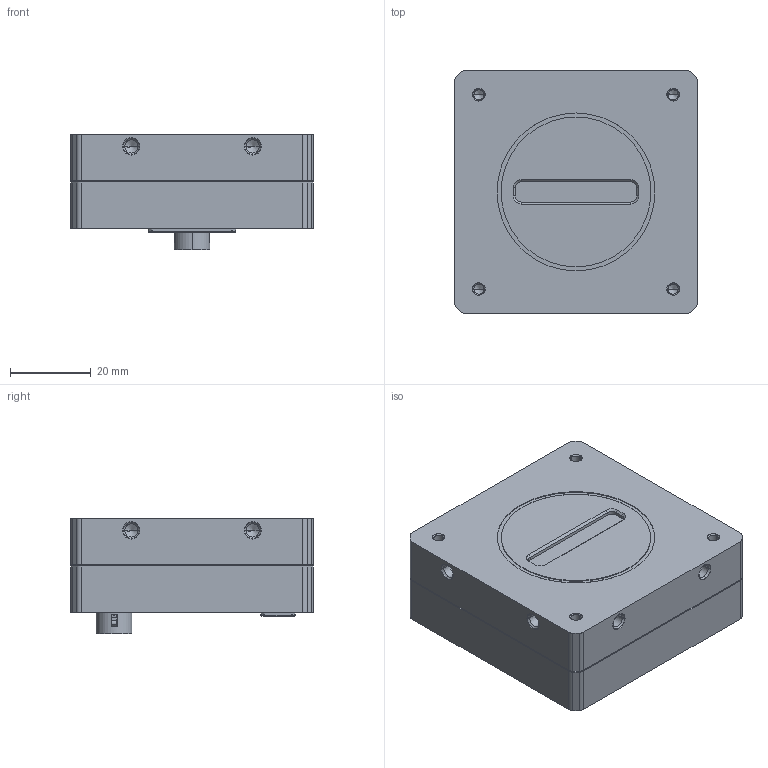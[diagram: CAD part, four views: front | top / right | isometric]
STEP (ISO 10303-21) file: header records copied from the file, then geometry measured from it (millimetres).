
FILE_DESCRIPTION((''),'2;1');
FILE_NAME('MV-CL021-60UM-OCT','2025-02-12T10:50:03',('sunli10'),(''),'CREO PARAMETRIC BY PTC INC, 2020044','CREO PARAMETRIC BY PTC INC, 2020044','');
FILE_SCHEMA(('CONFIG_CONTROL_DESIGN'));
Products named in the file (1): MV-CL021-60UM-OCT
Bounding box: 60 x 60 x 28.55 mm (x, y, z)
Volume: 81424.7 mm3; surface area: 21647.6 mm2
Topology: 5 solids, 62 shells, 2334 faces, 6188 edges, 3953 vertices
Faces by surface type: plane 1157, cylinder 699, bspline 262, cone 123, torus 72, extrusion 13, sphere 8
Entity records: 95738 total; most frequent: CARTESIAN_POINT 40725, ORIENTED_EDGE 12088, DIRECTION 10305, EDGE_CURVE 6140, VERTEX_POINT 3953, AXIS2_PLACEMENT_3D 3537, VECTOR 3231, LINE 3218
